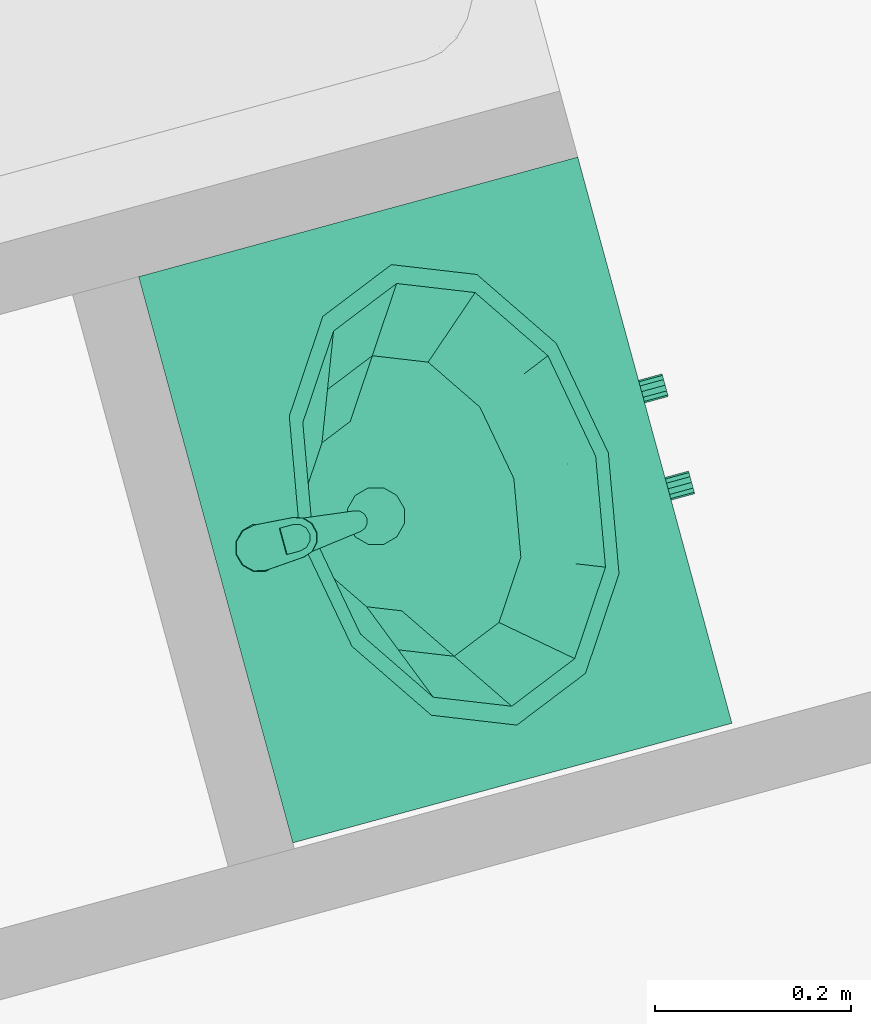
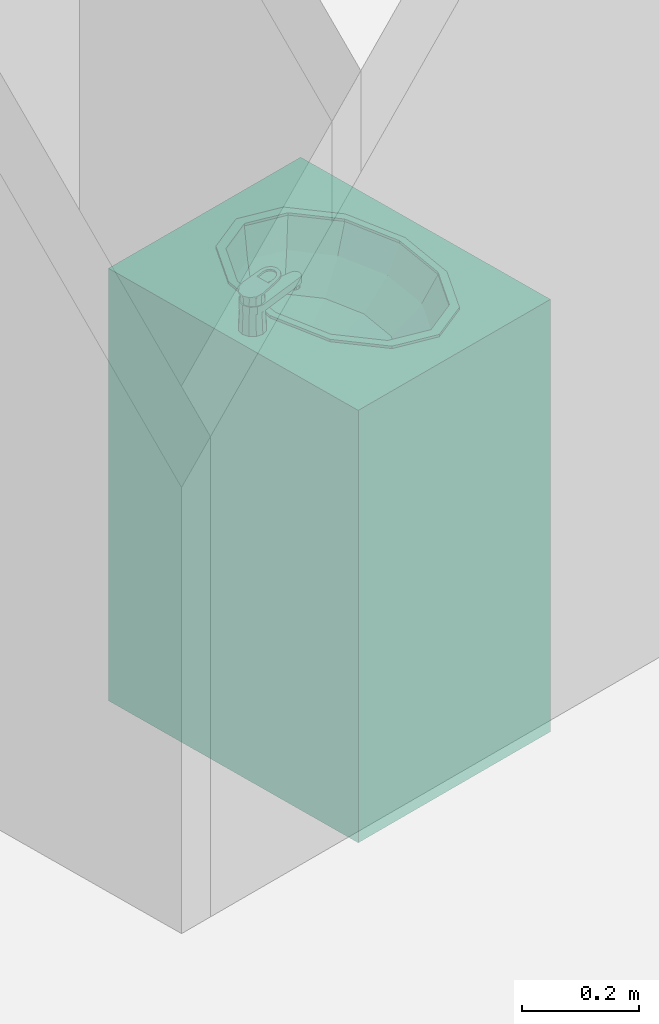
# One storey, part 144 of 195: 1 distribution element.
"""IFC2X3 building model written with IfcOpenShell, lengths in metres."""

from ifc_helpers import new_model, entity, si_unit, converted_unit, derived_unit, money_unit, direction, frame, origin_with_axes, place, context, subcontext, project, spatial, open_shell, faceted_brep, surface_model, source, transform, mapped, type_object, element, save


model = new_model("IFC2X3")

# Units and contexts
model_context = context("Model", 3, precision=1e-05, world=origin_with_axes(), true_north=direction((0.0, 1.0)))
body_context = subcontext(model_context, "Body", "Model", "MODEL_VIEW")
ifc_project = project(units=[si_unit("LENGTHUNIT", "METRE"), si_unit("AREAUNIT", "SQUARE_METRE"), si_unit("VOLUMEUNIT", "CUBIC_METRE"), converted_unit("PLANEANGLEUNIT", "DEGREE", entity("IfcPlaneAngleMeasure", 0.0174532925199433), si_unit("PLANEANGLEUNIT", "RADIAN"), dimensions=[0, 0, 0, 0, 0, 0, 0]), money_unit("CHF"), converted_unit("TIMEUNIT", "Year", entity("IfcTimeMeasure", 31557600.0), si_unit("TIMEUNIT", "SECOND"), dimensions=[0, 0, 1, 0, 0, 0, 0]), si_unit("MASSUNIT", "GRAM", prefix="KILO"), si_unit("THERMODYNAMICTEMPERATUREUNIT", "DEGREE_CELSIUS"), si_unit("LUMINOUSINTENSITYUNIT", "LUMEN"), si_unit("ENERGYUNIT", "JOULE", prefix="MEGA"), derived_unit("THERMALCONDUCTANCEUNIT", [(si_unit("POWERUNIT", "WATT"), 1), (si_unit("LENGTHUNIT", "METRE"), -1), (si_unit("THERMODYNAMICTEMPERATUREUNIT", "KELVIN"), -1)]), derived_unit("SPECIFICHEATCAPACITYUNIT", [(si_unit("ENERGYUNIT", "JOULE"), 1), (si_unit("MASSUNIT", "GRAM", prefix="KILO"), -1), (si_unit("THERMODYNAMICTEMPERATUREUNIT", "KELVIN"), -1)]), derived_unit("MASSDENSITYUNIT", [(si_unit("MASSUNIT", "GRAM", prefix="KILO"), 1), (si_unit("VOLUMEUNIT", "CUBIC_METRE"), -1)])], contexts=[model_context])

# Site, building, storey
site_placement = place(None, origin_with_axes())
site = spatial("IfcSite", under=ifc_project, at=site_placement, Name="Site", CompositionType="ELEMENT")
building_placement = place(site_placement, origin_with_axes())
building = spatial("IfcBuilding", under=site, at=building_placement, Name="Bâtiment", CompositionType="ELEMENT")
storey_placement = place(building_placement, origin_with_axes())
storey = spatial("IfcBuildingStorey", under=building, at=storey_placement, Name="rdc", CompositionType="ELEMENT", Elevation=0.0)

# Distribution element
distribution_element_type = type_object("IfcDistributionElementType", Name="Lavabo sur meuble 27")
shared_shape = source(origin_with_axes(), body_context, "Body", "SurfaceModel", [
    faceted_brep([(0.0, 0.0, 0.0), (0.0, 0.0, 0.1), (-0.6, 0.0, 0.1), (-0.6, 0.0, 0.0), (0.0, 0.4653441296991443, 0.0), (0.0, 0.4653441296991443, 0.1), (-0.6, 0.4653441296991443, 0.1), (-0.6, 0.4653441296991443, 0.0)], [[[0, 1, 2, 3]], [[4, 5, 1, 0]], [[1, 5, 6, 2]], [[3, 2, 6, 7]], [[0, 3, 7, 4]], [[7, 6, 5, 4]]]),
    faceted_brep([(0.0, 0.0, 0.1), (0.0, 0.0, 0.12), (-0.02, 0.0, 0.12), (-0.02, 0.0, 0.1), (0.0, 0.4653441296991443, 0.1), (0.0, 0.4653441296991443, 0.12), (-0.02, 0.4653441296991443, 0.12), (-0.58, 0.4653441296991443, 0.12), (-0.6, 0.4653441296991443, 0.12), (-0.6, 0.0, 0.12), (-0.58, 0.0, 0.12), (-0.58, 0.0, 0.1), (-0.6, 0.0, 0.1), (-0.6, 0.4653441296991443, 0.1), (-0.58, 0.4653441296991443, 0.1), (-0.02, 0.4653441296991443, 0.1)], [[[0, 1, 2, 3]], [[4, 5, 1, 0]], [[1, 5, 6, 7, 8, 9, 10, 2]], [[3, 2, 10, 11]], [[0, 3, 11, 12, 13, 14, 15, 4]], [[15, 6, 5, 4]], [[14, 7, 6, 15]], [[13, 8, 7, 14]], [[12, 9, 8, 13]], [[11, 10, 9, 12]]]),
    faceted_brep([(0.0, 0.0, 0.12), (0.0, 0.0, 0.85), (-0.02, 0.0, 0.85), (-0.02, 0.0, 0.12), (0.0, 0.4653441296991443, 0.12), (0.0, 0.4653441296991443, 0.85), (-0.6, 0.4653441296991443, 0.85), (-0.6, 0.0, 0.85), (-0.58, 0.0, 0.85), (-0.58, 0.4453441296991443, 0.85), (-0.02, 0.4453441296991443, 0.85), (-0.02, 0.4453441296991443, 0.12), (-0.58, 0.4453441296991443, 0.12), (-0.58, 0.0, 0.12), (-0.6, 0.0, 0.12), (-0.6, 0.4653441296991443, 0.12)], [[[0, 1, 2, 3]], [[4, 5, 1, 0]], [[1, 5, 6, 7, 8, 9, 10, 2]], [[3, 2, 10, 11]], [[0, 3, 11, 12, 13, 14, 15, 4]], [[15, 6, 5, 4]], [[14, 7, 6, 15]], [[13, 8, 7, 14]], [[12, 9, 8, 13]], [[11, 10, 9, 12]]]),
    faceted_brep([(-0.58, 0.0, 0.3233333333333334), (-0.58, 0.0, 0.3433333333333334), (-0.58, 0.4453441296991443, 0.3433333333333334), (-0.58, 0.4453441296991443, 0.3233333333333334), (-0.02, 0.0, 0.3233333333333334), (-0.02, 0.0, 0.3433333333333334), (-0.02, 0.4453441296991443, 0.3433333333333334), (-0.02, 0.4453441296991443, 0.3233333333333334)], [[[0, 1, 2, 3]], [[4, 5, 1, 0]], [[1, 5, 6, 2]], [[3, 2, 6, 7]], [[0, 3, 7, 4]], [[7, 6, 5, 4]]]),
    faceted_brep([(-0.58, 0.0, 0.5666666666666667), (-0.58, 0.0, 0.5866666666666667), (-0.58, 0.4453441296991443, 0.5866666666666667), (-0.58, 0.4453441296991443, 0.5666666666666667), (-0.02, 0.0, 0.5666666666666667), (-0.02, 0.0, 0.5866666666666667), (-0.02, 0.4453441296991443, 0.5866666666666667), (-0.02, 0.4453441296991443, 0.5666666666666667)], [[[0, 1, 2, 3]], [[4, 5, 1, 0]], [[1, 5, 6, 2]], [[3, 2, 6, 7]], [[0, 3, 7, 4]], [[7, 6, 5, 4]]]),
    faceted_brep([(0.0, 0.4653441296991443, 0.85), (0.0, 0.0, 0.85), (-0.6, 0.0, 0.85), (-0.6, 0.4653441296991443, 0.85), (-0.4124999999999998, 0.08276825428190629, 0.85), (-0.3, 0.06267206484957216, 0.85), (-0.1874999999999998, 0.08276825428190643, 0.85), (-0.1051442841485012, 0.1376720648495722, 0.85), (-0.07499999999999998, 0.2126720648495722, 0.85), (-0.1051442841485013, 0.2876720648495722, 0.85), (-0.1875000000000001, 0.342575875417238, 0.85), (-0.3, 0.3626720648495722, 0.85), (-0.4125, 0.3425758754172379, 0.85), (-0.4948557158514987, 0.2876720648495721, 0.85), (-0.525, 0.2126720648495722, 0.85), (-0.4948557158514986, 0.137672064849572, 0.85), (0.0, 0.4653441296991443, 0.9), (0.0, 0.0, 0.9), (-0.6, 0.0, 0.9), (-0.6, 0.4653441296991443, 0.9), (-0.3, 0.06267206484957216, 0.9), (-0.4124999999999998, 0.08276825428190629, 0.9), (-0.1874999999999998, 0.08276825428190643, 0.9), (-0.1051442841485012, 0.1376720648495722, 0.9), (-0.07499999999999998, 0.2126720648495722, 0.9), (-0.1051442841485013, 0.2876720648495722, 0.9), (-0.1875000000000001, 0.342575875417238, 0.9), (-0.3, 0.3626720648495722, 0.9), (-0.4125, 0.3425758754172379, 0.9), (-0.4948557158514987, 0.2876720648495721, 0.9), (-0.525, 0.2126720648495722, 0.9), (-0.4948557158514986, 0.137672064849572, 0.9)], [[[0, 1, 2, 3], [4, 5, 6, 7, 8, 9, 10, 11, 12, 13, 14, 15]], [[1, 0, 16, 17]], [[2, 1, 17, 18]], [[3, 2, 18, 19]], [[0, 3, 19, 16]], [[20, 5, 4, 21]], [[22, 6, 5, 20]], [[23, 7, 6, 22]], [[24, 8, 7, 23]], [[25, 9, 8, 24]], [[26, 10, 9, 25]], [[27, 11, 10, 26]], [[28, 12, 11, 27]], [[29, 13, 12, 28]], [[30, 14, 13, 29]], [[31, 15, 14, 30]], [[21, 4, 15, 31]], [[18, 17, 16, 19], [28, 27, 26, 25, 24, 23, 22, 20, 21, 31, 30, 29]]]),
    faceted_brep([(-0.544, 0.2126720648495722, 0.905), (-0.511310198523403, 0.2943684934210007, 0.905), (-0.511310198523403, 0.2943684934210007, 0.9), (-0.544, 0.2126720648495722, 0.9), (-0.5113101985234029, 0.1309756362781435, 0.905), (-0.4219999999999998, 0.07116969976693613, 0.905), (-0.3, 0.04927920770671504, 0.905), (-0.1779999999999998, 0.07116969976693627, 0.905), (-0.08868980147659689, 0.1309756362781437, 0.905), (-0.05599999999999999, 0.2126720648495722, 0.905), (-0.088689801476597, 0.2943684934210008, 0.905), (-0.178, 0.3541744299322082, 0.905), (-0.3, 0.3760649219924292, 0.905), (-0.422, 0.3541744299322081, 0.905), (-0.524, 0.2126720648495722, 0.905), (-0.4939896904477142, 0.2876720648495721, 0.905), (-0.412, 0.3425758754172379, 0.905), (-0.3, 0.3626720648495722, 0.905), (-0.1880000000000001, 0.342575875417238, 0.905), (-0.1060103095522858, 0.2876720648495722, 0.905), (-0.07599999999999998, 0.2126720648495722, 0.905), (-0.1060103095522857, 0.1376720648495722, 0.905), (-0.1879999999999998, 0.08276825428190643, 0.905), (-0.3, 0.06267206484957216, 0.905), (-0.4119999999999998, 0.08276825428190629, 0.905), (-0.4939896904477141, 0.137672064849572, 0.905), (-0.422, 0.3541744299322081, 0.9), (-0.3, 0.3760649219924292, 0.9), (-0.178, 0.3541744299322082, 0.9), (-0.088689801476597, 0.2943684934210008, 0.9), (-0.05599999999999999, 0.2126720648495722, 0.9), (-0.08868980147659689, 0.1309756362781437, 0.9), (-0.1779999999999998, 0.07116969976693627, 0.9), (-0.3, 0.04927920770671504, 0.9), (-0.4219999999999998, 0.07116969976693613, 0.9), (-0.5113101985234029, 0.1309756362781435, 0.9), (-0.524, 0.2126720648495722, 0.9), (-0.4939896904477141, 0.137672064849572, 0.9), (-0.4119999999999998, 0.08276825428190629, 0.9), (-0.3, 0.06267206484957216, 0.9), (-0.1879999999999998, 0.08276825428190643, 0.9), (-0.1060103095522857, 0.1376720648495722, 0.9), (-0.07599999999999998, 0.2126720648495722, 0.9), (-0.1060103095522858, 0.2876720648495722, 0.9), (-0.1880000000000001, 0.342575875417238, 0.9), (-0.3, 0.3626720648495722, 0.9), (-0.412, 0.3425758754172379, 0.9), (-0.4939896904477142, 0.2876720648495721, 0.9)], [[[0, 1, 2, 3]], [[0, 4, 5, 6, 7, 8, 9, 10, 11, 12, 13, 1], [14, 15, 16, 17, 18, 19, 20, 21, 22, 23, 24, 25]], [[1, 13, 26, 2]], [[3, 2, 26, 27, 28, 29, 30, 31, 32, 33, 34, 35], [36, 37, 38, 39, 40, 41, 42, 43, 44, 45, 46, 47]], [[4, 0, 3, 35]], [[5, 4, 35, 34]], [[6, 5, 34, 33]], [[7, 6, 33, 32]], [[8, 7, 32, 31]], [[9, 8, 31, 30]], [[10, 9, 30, 29]], [[11, 10, 29, 28]], [[12, 11, 28, 27]], [[13, 12, 27, 26]], [[15, 14, 36, 47]], [[16, 15, 47, 46]], [[17, 16, 46, 45]], [[18, 17, 45, 44]], [[19, 18, 44, 43]], [[20, 19, 43, 42]], [[21, 20, 42, 41]], [[22, 21, 41, 40]], [[23, 22, 40, 39]], [[24, 23, 39, 38]], [[25, 24, 38, 37]], [[14, 25, 37, 36]]]),
    surface_model("IfcShellBasedSurfaceModel", [(-0.3, 0.3626720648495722, 0.9), (-0.412, 0.342575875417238, 0.9), (-0.4008, 0.3445854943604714, 0.848), (-0.3, 0.3626720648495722, 0.848), (-0.4939896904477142, 0.2876720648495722, 0.9), (-0.4745907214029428, 0.2951720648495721, 0.848), (-0.1879999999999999, 0.3425758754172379, 0.9), (-0.1991999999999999, 0.3445854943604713, 0.848), (-0.524, 0.2126720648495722, 0.9), (-0.5016, 0.2276720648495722, 0.848), (-0.1060103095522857, 0.2876720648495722, 0.9), (-0.1254092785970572, 0.2951720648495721, 0.848), (-0.4939896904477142, 0.1376720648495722, 0.9), (-0.4745907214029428, 0.1601720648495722, 0.848), (-0.07599999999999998, 0.2126720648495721, 0.9), (-0.09839999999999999, 0.2276720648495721, 0.848), (-0.412, 0.08276825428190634, 0.9), (-0.4008, 0.1107586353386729, 0.848), (-0.1060103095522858, 0.1376720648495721, 0.9), (-0.1254092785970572, 0.1601720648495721, 0.848), (-0.3, 0.06267206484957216, 0.9), (-0.3, 0.09267206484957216, 0.848), (-0.1879999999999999, 0.08276825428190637, 0.9), (-0.1992, 0.110758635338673, 0.848)], [open_shell([[[0, 1, 2, 3]], [[1, 4, 5, 2]], [[6, 0, 3, 7]], [[4, 8, 9, 5]], [[10, 6, 7, 11]], [[8, 12, 13, 9]], [[14, 10, 11, 15]], [[12, 16, 17, 13]], [[18, 14, 15, 19]], [[16, 20, 21, 17]], [[22, 18, 19, 23]], [[20, 22, 23, 21]]])]),
    surface_model("IfcShellBasedSurfaceModel", [(-0.3, 0.3626720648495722, 0.848), (-0.4008, 0.3445854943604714, 0.848), (-0.379632, 0.3483836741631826, 0.7959999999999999), (-0.3, 0.3626720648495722, 0.7959999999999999), (-0.4745907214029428, 0.2951720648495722, 0.848), (-0.4379266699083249, 0.3093470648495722, 0.7959999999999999), (-0.1991999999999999, 0.3445854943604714, 0.848), (-0.2203679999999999, 0.3483836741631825, 0.7959999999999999), (-0.5016, 0.2276720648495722, 0.848), (-0.459264, 0.2560220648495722, 0.7959999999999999), (-0.1254092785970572, 0.2951720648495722, 0.848), (-0.1620733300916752, 0.3093470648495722, 0.7959999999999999), (-0.4745907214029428, 0.1601720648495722, 0.848), (-0.4379266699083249, 0.2026970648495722, 0.7959999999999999), (-0.09839999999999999, 0.2276720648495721, 0.848), (-0.140736, 0.2560220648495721, 0.7959999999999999), (-0.4008, 0.1107586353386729, 0.848), (-0.379632, 0.1636604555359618, 0.7959999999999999), (-0.1254092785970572, 0.1601720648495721, 0.848), (-0.1620733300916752, 0.2026970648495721, 0.7959999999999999), (-0.3, 0.09267206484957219, 0.848), (-0.3, 0.1493720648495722, 0.7959999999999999), (-0.1992, 0.110758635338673, 0.848), (-0.220368, 0.1636604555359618, 0.7959999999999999)], [open_shell([[[0, 1, 2, 3]], [[1, 4, 5, 2]], [[6, 0, 3, 7]], [[4, 8, 9, 5]], [[10, 6, 7, 11]], [[8, 12, 13, 9]], [[14, 10, 11, 15]], [[12, 16, 17, 13]], [[18, 14, 15, 19]], [[16, 20, 21, 17]], [[22, 18, 19, 23]], [[20, 22, 23, 21]]])]),
    surface_model("IfcShellBasedSurfaceModel", [(-0.3, 0.3626720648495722, 0.7959999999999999), (-0.379632, 0.3483836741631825, 0.7959999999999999), (-0.35016816, 0.3536703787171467, 0.7699999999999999), (-0.3, 0.3626720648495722, 0.7699999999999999), (-0.4379266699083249, 0.3093470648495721, 0.7959999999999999), (-0.3868938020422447, 0.3290773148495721, 0.7699999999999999), (-0.2203679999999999, 0.3483836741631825, 0.7959999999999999), (-0.2498318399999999, 0.3536703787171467, 0.7699999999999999), (-0.459264, 0.2560220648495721, 0.7959999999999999), (-0.40033632, 0.2954825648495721, 0.7699999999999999), (-0.1620733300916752, 0.3093470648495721, 0.7959999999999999), (-0.2131061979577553, 0.3290773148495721, 0.7699999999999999), (-0.4379266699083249, 0.2026970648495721, 0.7959999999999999), (-0.3868938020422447, 0.2618878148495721, 0.7699999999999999), (-0.140736, 0.2560220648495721, 0.7959999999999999), (-0.19966368, 0.2954825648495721, 0.7699999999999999), (-0.379632, 0.1636604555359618, 0.7959999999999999), (-0.35016816, 0.2372947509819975, 0.7699999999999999), (-0.1620733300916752, 0.2026970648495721, 0.7959999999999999), (-0.2131061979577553, 0.2618878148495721, 0.7699999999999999), (-0.3, 0.1493720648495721, 0.7959999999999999), (-0.3, 0.2282930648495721, 0.7699999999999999), (-0.220368, 0.1636604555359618, 0.7959999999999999), (-0.24983184, 0.2372947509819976, 0.7699999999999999)], [open_shell([[[0, 1, 2, 3]], [[1, 4, 5, 2]], [[6, 0, 3, 7]], [[4, 8, 9, 5]], [[10, 6, 7, 11]], [[8, 12, 13, 9]], [[14, 10, 11, 15]], [[12, 16, 17, 13]], [[18, 14, 15, 19]], [[16, 20, 21, 17]], [[22, 18, 19, 23]], [[20, 22, 23, 21]]])]),
    surface_model("IfcShellBasedSurfaceModel", [(-0.3, 0.3626720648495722, 0.7699999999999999), (-0.35016816, 0.3536703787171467, 0.7699999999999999), (-0.315, 0.3214633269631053, 0.7629999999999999), (-0.3259807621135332, 0.3104825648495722, 0.7629999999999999), (-0.3, 0.3254825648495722, 0.7629999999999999), (-0.3868938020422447, 0.3290773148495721, 0.7699999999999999), (-0.2498318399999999, 0.3536703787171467, 0.7699999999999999), (-0.33, 0.2954825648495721, 0.7629999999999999), (-0.285, 0.3214633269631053, 0.7629999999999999), (-0.40033632, 0.2954825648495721, 0.7699999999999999), (-0.2131061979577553, 0.3290773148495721, 0.7699999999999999), (-0.3259807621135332, 0.2804825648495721, 0.7629999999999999), (-0.2740192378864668, 0.3104825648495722, 0.7629999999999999), (-0.3868938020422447, 0.2618878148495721, 0.7699999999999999), (-0.19966368, 0.2954825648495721, 0.7699999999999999), (-0.315, 0.269501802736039, 0.7629999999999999), (-0.27, 0.2954825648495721, 0.7629999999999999), (-0.35016816, 0.2372947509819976, 0.7699999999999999), (-0.2131061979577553, 0.2618878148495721, 0.7699999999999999), (-0.3, 0.2654825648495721, 0.7629999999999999), (-0.2740192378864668, 0.2804825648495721, 0.7629999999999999), (-0.3, 0.2282930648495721, 0.7699999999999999), (-0.24983184, 0.2372947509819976, 0.7699999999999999), (-0.285, 0.269501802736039, 0.7629999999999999)], [open_shell([[[0, 1, 2]], [[1, 3, 2]], [[0, 2, 4]], [[1, 5, 3]], [[6, 0, 4]], [[5, 7, 3]], [[6, 4, 8]], [[5, 9, 7]], [[10, 6, 8]], [[9, 11, 7]], [[10, 8, 12]], [[9, 13, 11]], [[14, 10, 12]], [[13, 15, 11]], [[14, 12, 16]], [[13, 17, 15]], [[18, 14, 16]], [[17, 19, 15]], [[18, 16, 20]], [[17, 21, 19]], [[22, 18, 20]], [[21, 23, 19]], [[22, 20, 23]], [[21, 22, 23]]])]),
    surface_model("IfcShellBasedSurfaceModel", [(-0.33, 0.2954825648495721, 0.763), (-0.3259807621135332, 0.3104825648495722, 0.763), (-0.3259807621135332, 0.3104825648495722, 0.758), (-0.33, 0.2954825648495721, 0.758), (-0.315, 0.3214633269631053, 0.763), (-0.315, 0.3214633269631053, 0.758), (-0.3, 0.3254825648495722, 0.758), (-0.285, 0.3214633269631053, 0.758), (-0.2740192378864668, 0.3104825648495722, 0.758), (-0.27, 0.2954825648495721, 0.758), (-0.2740192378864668, 0.2804825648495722, 0.758), (-0.285, 0.269501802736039, 0.758), (-0.3, 0.2654825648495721, 0.758), (-0.3149999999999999, 0.269501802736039, 0.758), (-0.3259807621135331, 0.2804825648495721, 0.758), (-0.3259807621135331, 0.2804825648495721, 0.763), (-0.3, 0.3254825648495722, 0.763), (-0.285, 0.3214633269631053, 0.763), (-0.2740192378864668, 0.3104825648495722, 0.763), (-0.27, 0.2954825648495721, 0.763), (-0.2740192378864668, 0.2804825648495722, 0.763), (-0.285, 0.269501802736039, 0.763), (-0.3, 0.2654825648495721, 0.763), (-0.3149999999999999, 0.269501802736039, 0.763)], [open_shell([[[0, 1, 2, 3]], [[1, 4, 5, 2]], [[3, 2, 5, 6, 7, 8, 9, 10, 11, 12, 13, 14]], [[15, 0, 3, 14]], [[4, 16, 6, 5]], [[16, 17, 7, 6]], [[17, 18, 8, 7]], [[18, 19, 9, 8]], [[19, 20, 10, 9]], [[20, 21, 11, 10]], [[21, 22, 12, 11]], [[22, 23, 13, 12]], [[23, 15, 14, 13]]])]),
    faceted_brep([(-0.3125, 0.4406587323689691, 0.9), (-0.310587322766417, 0.4373458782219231, 0.976507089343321), (-0.3, 0.4402100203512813, 0.9759615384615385), (-0.3, 0.4440080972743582, 0.9), (-0.3216506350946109, 0.4315080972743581, 0.9), (-0.3182735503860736, 0.4295583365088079, 0.9779904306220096), (-0.321, 0.4190080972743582, 0.98), (-0.3181003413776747, 0.4085578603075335, 0.9819905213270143), (-0.3104141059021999, 0.400970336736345, 0.9834357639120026), (-0.3, 0.3982062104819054, 0.9839622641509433), (-0.2895858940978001, 0.400970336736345, 0.9834357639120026), (-0.2818996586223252, 0.4085578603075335, 0.9819905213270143), (-0.279, 0.4190080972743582, 0.98), (-0.2817264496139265, 0.4295583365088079, 0.9779904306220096), (-0.289412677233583, 0.4373458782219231, 0.976507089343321), (-0.2875, 0.4406587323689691, 0.9), (-0.278349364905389, 0.4315080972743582, 0.9), (-0.275, 0.4190080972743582, 0.9), (-0.278349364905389, 0.4065080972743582, 0.9), (-0.2875, 0.3973574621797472, 0.9), (-0.3, 0.3940080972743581, 0.9), (-0.3125, 0.3973574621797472, 0.9), (-0.3216506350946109, 0.4065080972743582, 0.9), (-0.325, 0.4190080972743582, 0.9)], [[[0, 1, 2, 3]], [[4, 5, 1, 0]], [[1, 5, 6, 7, 8, 9, 10, 11, 12, 13, 14, 2]], [[3, 2, 14, 15]], [[0, 3, 15, 16, 17, 18, 19, 20, 21, 22, 23, 4]], [[23, 6, 5, 4]], [[22, 7, 6, 23]], [[21, 8, 7, 22]], [[20, 9, 8, 21]], [[19, 10, 9, 20]], [[18, 11, 10, 19]], [[17, 12, 11, 18]], [[16, 13, 12, 17]], [[15, 14, 13, 16]]]),
    faceted_brep([(-0.309, 0.3160080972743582, 0.935), (-0.309, 0.3160080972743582, 0.9450000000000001), (-0.3077942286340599, 0.3205080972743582, 0.9450000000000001), (-0.3077942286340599, 0.3205080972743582, 0.935), (-0.3077942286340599, 0.3115080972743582, 0.935), (-0.3077942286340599, 0.3115080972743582, 0.9450000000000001), (-0.3045, 0.3082138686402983, 0.9450000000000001), (-0.3, 0.3070080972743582, 0.9450000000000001), (-0.2955, 0.3082138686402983, 0.9450000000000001), (-0.2922057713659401, 0.3115080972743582, 0.9450000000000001), (-0.291, 0.3160080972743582, 0.9450000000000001), (-0.2922057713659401, 0.3205080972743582, 0.9450000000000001), (-0.2955, 0.3238023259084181, 0.9450000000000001), (-0.3, 0.3250080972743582, 0.9450000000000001), (-0.3045, 0.3238023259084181, 0.9450000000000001), (-0.3045, 0.3238023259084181, 0.935), (-0.3, 0.3250080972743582, 0.935), (-0.2955, 0.3238023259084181, 0.935), (-0.2922057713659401, 0.3205080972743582, 0.935), (-0.291, 0.3160080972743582, 0.935), (-0.2922057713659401, 0.3115080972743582, 0.935), (-0.2955, 0.3082138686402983, 0.935), (-0.3, 0.3070080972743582, 0.935), (-0.3045, 0.3082138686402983, 0.935)], [[[0, 1, 2, 3]], [[4, 5, 1, 0]], [[1, 5, 6, 7, 8, 9, 10, 11, 12, 13, 14, 2]], [[3, 2, 14, 15]], [[0, 3, 15, 16, 17, 18, 19, 20, 21, 22, 23, 4]], [[23, 6, 5, 4]], [[22, 7, 6, 23]], [[21, 8, 7, 22]], [[20, 9, 8, 21]], [[19, 10, 9, 20]], [[18, 11, 10, 19]], [[17, 12, 11, 18]], [[16, 13, 12, 17]], [[15, 14, 13, 16]]]),
    faceted_brep([(-0.2871282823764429, 0.439264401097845, 0.9600000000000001), (-0.300000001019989, 0.44300807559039, 0.9600000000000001), (-0.3128717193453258, 0.4392644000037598, 0.9600000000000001), (-0.3217278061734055, 0.4292013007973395, 0.9600000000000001), (-0.3238053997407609, 0.4159581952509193, 0.9600000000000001), (-0.310912, 0.3146197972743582, 0.9600000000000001), (-0.309028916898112, 0.3097249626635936, 0.9600000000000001), (-0.3050933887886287, 0.3062584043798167, 0.9600000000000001), (-0.300000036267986, 0.305008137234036, 0.9600000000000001), (-0.2949066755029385, 0.3062583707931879, 0.9600000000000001), (-0.2909711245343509, 0.3097249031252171, 0.9600000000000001), (-0.2890880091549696, 0.3146197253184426, 0.9600000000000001), (-0.2761946, 0.4159581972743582, 0.9600000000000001), (-0.2782721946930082, 0.4292013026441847, 0.9600000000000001), (-0.311, 0.4380606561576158, 0.9600000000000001), (-0.3, 0.4410080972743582, 0.9600000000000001), (-0.289, 0.4380606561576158, 0.9600000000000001), (-0.2809474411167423, 0.4300080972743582, 0.9600000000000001), (-0.278, 0.4190080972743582, 0.9600000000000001), (-0.2809474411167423, 0.4080080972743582, 0.9600000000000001), (-0.289, 0.3999555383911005, 0.9600000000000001), (-0.3, 0.3970080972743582, 0.9600000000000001), (-0.3109999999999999, 0.3999555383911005, 0.9600000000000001), (-0.3190525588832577, 0.4080080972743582, 0.9600000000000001), (-0.322, 0.4190080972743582, 0.9600000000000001), (-0.3190525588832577, 0.4300080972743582, 0.9600000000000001), (-0.2871282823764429, 0.439264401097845, 0.9450000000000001), (-0.300000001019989, 0.44300807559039, 0.9450000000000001), (-0.3128717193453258, 0.4392644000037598, 0.9450000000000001), (-0.3217278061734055, 0.4292013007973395, 0.9450000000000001), (-0.3238053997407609, 0.4159581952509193, 0.9450000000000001), (-0.310912, 0.3146197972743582, 0.9450000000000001), (-0.309028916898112, 0.3097249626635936, 0.9450000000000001), (-0.3050933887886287, 0.3062584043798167, 0.9450000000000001), (-0.300000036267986, 0.305008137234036, 0.9450000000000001), (-0.2949066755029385, 0.3062583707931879, 0.9450000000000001), (-0.2909711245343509, 0.3097249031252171, 0.9450000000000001), (-0.2890880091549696, 0.3146197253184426, 0.9450000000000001), (-0.2761946, 0.4159581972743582, 0.9450000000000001), (-0.2782721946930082, 0.4292013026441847, 0.9450000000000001), (-0.3, 0.4417580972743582, 0.9450000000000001), (-0.311375, 0.4387101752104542, 0.9450000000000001), (-0.288625, 0.4387101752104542, 0.9450000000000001), (-0.280297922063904, 0.4303830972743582, 0.9450000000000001), (-0.2772499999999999, 0.4190080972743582, 0.9450000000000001), (-0.280297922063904, 0.4076330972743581, 0.9450000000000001), (-0.288625, 0.3993060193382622, 0.9450000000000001), (-0.3, 0.3962580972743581, 0.9450000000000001), (-0.311375, 0.3993060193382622, 0.9450000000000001), (-0.319702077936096, 0.4076330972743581, 0.9450000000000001), (-0.32275, 0.4190080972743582, 0.9450000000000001), (-0.319702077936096, 0.4303830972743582, 0.9450000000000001)], [[[0, 1, 2, 3, 4, 5, 6, 7, 8, 9, 10, 11, 12, 13], [14, 15, 16, 17, 18, 19, 20, 21, 22, 23, 24, 25]], [[26, 27, 1, 0]], [[27, 28, 2, 1]], [[28, 29, 3, 2]], [[29, 30, 4, 3]], [[30, 31, 5, 4]], [[31, 32, 6, 5]], [[32, 33, 7, 6]], [[33, 34, 8, 7]], [[34, 35, 9, 8]], [[35, 36, 10, 9]], [[36, 37, 11, 10]], [[37, 38, 12, 11]], [[38, 39, 13, 12]], [[39, 26, 0, 13]], [[40, 15, 14, 41]], [[42, 16, 15, 40]], [[16, 42, 43, 17]], [[17, 43, 44, 18]], [[18, 44, 45, 19]], [[19, 45, 46, 20]], [[20, 46, 47, 21]], [[48, 22, 21, 47]], [[49, 23, 22, 48]], [[50, 24, 23, 49]], [[51, 25, 24, 50]], [[41, 14, 25, 51]], [[34, 33, 32, 31, 30, 29, 28, 27, 26, 39, 38, 37, 36, 35], [48, 47, 46, 45, 44, 43, 42, 40, 41, 51, 50, 49]]]),
    faceted_brep([(-0.323893, 0.4173155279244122, 0.9803223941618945), (-0.323893, 0.4180639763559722, 0.9842517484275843), (-0.3212964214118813, 0.4305312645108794, 0.9818770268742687), (-0.3212964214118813, 0.4297828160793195, 0.9779476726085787), (-0.3209459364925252, 0.377171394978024, 0.9879688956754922), (-0.3209459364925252, 0.377919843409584, 0.9918982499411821), (-0.317663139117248, 0.3682421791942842, 0.9937416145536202), (-0.3100614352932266, 0.3612927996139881, 0.995065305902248), (-0.2999995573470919, 0.3587709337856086, 0.9955456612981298), (-0.289937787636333, 0.3612932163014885, 0.9950652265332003), (-0.2823363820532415, 0.3682429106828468, 0.9937414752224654), (-0.279054, 0.3779207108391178, 0.991898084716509), (-0.2761069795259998, 0.4180642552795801, 0.9842516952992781), (-0.2787037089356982, 0.4305315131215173, 0.9818769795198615), (-0.2875283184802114, 0.4398477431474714, 0.9801024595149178), (-0.3000001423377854, 0.4432885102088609, 0.9794470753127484), (-0.3124719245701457, 0.4398475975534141, 0.9801024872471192), (-0.314, 0.3942157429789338, 0.9887942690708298), (-0.286, 0.3942157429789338, 0.9887942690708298), (-0.286, 0.3794001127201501, 0.9916162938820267), (-0.2878756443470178, 0.3725237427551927, 0.9929260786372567), (-0.293, 0.3674898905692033, 0.9938849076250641), (-0.3, 0.3656473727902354, 0.9942358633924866), (-0.307, 0.3674898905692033, 0.9938849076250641), (-0.3121243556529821, 0.3725237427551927, 0.9929260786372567), (-0.314, 0.3794001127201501, 0.9916162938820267), (-0.3124719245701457, 0.4390991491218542, 0.9761731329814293), (-0.3000001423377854, 0.4425400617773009, 0.9755177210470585), (-0.2875283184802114, 0.4390992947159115, 0.976173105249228), (-0.2787037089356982, 0.4297830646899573, 0.9779476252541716), (-0.2761069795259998, 0.4173158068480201, 0.9803223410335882), (-0.279054, 0.3771722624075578, 0.9879687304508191), (-0.2823363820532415, 0.3674944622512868, 0.9898121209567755), (-0.289937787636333, 0.3605447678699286, 0.9911358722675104), (-0.2999995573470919, 0.3580224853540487, 0.9916163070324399), (-0.3100614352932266, 0.3605443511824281, 0.9911359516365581), (-0.317663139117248, 0.3674937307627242, 0.9898122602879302), (-0.314, 0.3934672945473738, 0.9848649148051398), (-0.314, 0.37865166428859, 0.9876869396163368), (-0.3121243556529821, 0.3717752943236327, 0.9889967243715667), (-0.307, 0.3667414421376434, 0.9899555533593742), (-0.3, 0.3648989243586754, 0.9903065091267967), (-0.293, 0.3667414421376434, 0.9899555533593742), (-0.2878756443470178, 0.3717752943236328, 0.9889967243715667), (-0.286, 0.37865166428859, 0.9876869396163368), (-0.286, 0.3934672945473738, 0.9848649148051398)], [[[0, 1, 2, 3]], [[4, 5, 1, 0]], [[1, 5, 6, 7, 8, 9, 10, 11, 12, 13, 14, 15, 16, 2], [17, 18, 19, 20, 21, 22, 23, 24, 25]], [[3, 2, 16, 26]], [[0, 3, 26, 27, 28, 29, 30, 31, 32, 33, 34, 35, 36, 4], [37, 38, 39, 40, 41, 42, 43, 44, 45]], [[36, 6, 5, 4]], [[35, 7, 6, 36]], [[34, 8, 7, 35]], [[33, 9, 8, 34]], [[32, 10, 9, 33]], [[31, 11, 10, 32]], [[30, 12, 11, 31]], [[29, 13, 12, 30]], [[28, 14, 13, 29]], [[27, 15, 14, 28]], [[26, 16, 15, 27]], [[45, 18, 17, 37]], [[44, 19, 18, 45]], [[43, 20, 19, 44]], [[42, 21, 20, 43]], [[41, 22, 21, 42]], [[40, 23, 22, 41]], [[39, 24, 23, 40]], [[38, 25, 24, 39]], [[37, 17, 25, 38]]]),
    surface_model("IfcShellBasedSurfaceModel", [(-0.001500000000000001, 0.0, 0.1015), (-0.2985, 0.0, 0.1015), (-0.2985, 0.0, 0.8485), (-0.001500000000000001, 0.0, 0.8485)], [open_shell([[[0, 1, 2, 3]]])]),
    faceted_brep([(-0.2588923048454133, 0.0, 0.7855), (-0.2605, 0.0, 0.7915), (-0.2588923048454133, 0.0, 0.7975), (-0.2545, 0.0, 0.8018923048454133), (-0.2485, 0.0, 0.8035), (-0.2425, 0.0, 0.8018923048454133), (-0.2381076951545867, 0.0, 0.7975), (-0.2365, 0.0, 0.7915), (-0.2381076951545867, 0.0, 0.7855), (-0.2425, 0.0, 0.7811076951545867), (-0.2485, 0.0, 0.7795), (-0.2545, 0.0, 0.7811076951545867), (-0.2588923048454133, -0.025, 0.7855), (-0.2605, -0.025, 0.7915), (-0.2588923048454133, -0.025, 0.7975), (-0.2545, -0.025, 0.8018923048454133), (-0.2485, -0.025, 0.8035), (-0.2425, -0.025, 0.8018923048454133), (-0.2381076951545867, -0.025, 0.7975), (-0.2365, -0.025, 0.7915), (-0.2381076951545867, -0.025, 0.7855), (-0.2425, -0.025, 0.7811076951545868), (-0.2485, -0.025, 0.7795), (-0.2545, -0.025, 0.7811076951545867)], [[[0, 1, 2, 3, 4, 5, 6, 7, 8, 9, 10, 11]], [[0, 12, 13, 1]], [[1, 13, 14, 2]], [[2, 14, 15, 3]], [[3, 15, 16, 4]], [[4, 16, 17, 5]], [[5, 17, 18, 6]], [[6, 18, 19, 7]], [[7, 19, 20, 8]], [[8, 20, 21, 9]], [[9, 21, 22, 10]], [[10, 22, 23, 11]], [[11, 23, 12, 0]], [[12, 23, 22, 21, 20, 19, 18, 17, 16, 15, 14, 13]]]),
    surface_model("IfcShellBasedSurfaceModel", [(-0.5985, 0.0, 0.1015), (-0.5985, 0.0, 0.8485), (-0.3015000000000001, 0.0, 0.8485), (-0.3015000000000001, 0.0, 0.1015)], [open_shell([[[0, 1, 2, 3]]])]),
    faceted_brep([(-0.3411076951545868, 0.0, 0.7855), (-0.3455, 0.0, 0.7811076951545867), (-0.3515, 0.0, 0.7795), (-0.3575, 0.0, 0.7811076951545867), (-0.3618923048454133, 0.0, 0.7855), (-0.3635, 0.0, 0.7915), (-0.3618923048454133, 0.0, 0.7975), (-0.3575, 0.0, 0.8018923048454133), (-0.3515, 0.0, 0.8035), (-0.3455, 0.0, 0.8018923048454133), (-0.3411076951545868, 0.0, 0.7975), (-0.3395, 0.0, 0.7915), (-0.3411076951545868, -0.025, 0.7855), (-0.3455, -0.025, 0.7811076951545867), (-0.3515, -0.025, 0.7795), (-0.3575, -0.025, 0.7811076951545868), (-0.3618923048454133, -0.025, 0.7855), (-0.3635, -0.025, 0.7915), (-0.3618923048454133, -0.025, 0.7975), (-0.3575, -0.025, 0.8018923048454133), (-0.3515, -0.025, 0.8035), (-0.3455, -0.025, 0.8018923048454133), (-0.3411076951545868, -0.025, 0.7975), (-0.3395, -0.025, 0.7915)], [[[0, 1, 2, 3, 4, 5, 6, 7, 8, 9, 10, 11]], [[1, 0, 12, 13]], [[2, 1, 13, 14]], [[3, 2, 14, 15]], [[4, 3, 15, 16]], [[5, 4, 16, 17]], [[6, 5, 17, 18]], [[7, 6, 18, 19]], [[8, 7, 19, 20]], [[9, 8, 20, 21]], [[10, 9, 21, 22]], [[11, 10, 22, 23]], [[0, 11, 23, 12]], [[12, 23, 22, 21, 20, 19, 18, 17, 16, 15, 14, 13]]]),
])
distribution_element_placement = place(storey_placement, frame((9584.838011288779, -1016.250037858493, 57.59999999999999), z_axis=(0.0, 0.0, 1.0), x_axis=(-0.2627340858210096, 0.9648682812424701, 0.0)))
element("IfcDistributionElement", 1, at=distribution_element_placement, inside=storey, type_object=distribution_element_type, Name="Obj.-004", context=body_context, shape_type="MappedRepresentation", body=[
    mapped(shared_shape, transform((0.0, 0.0, 0.0))),
])

save(model, "model.ifc")
